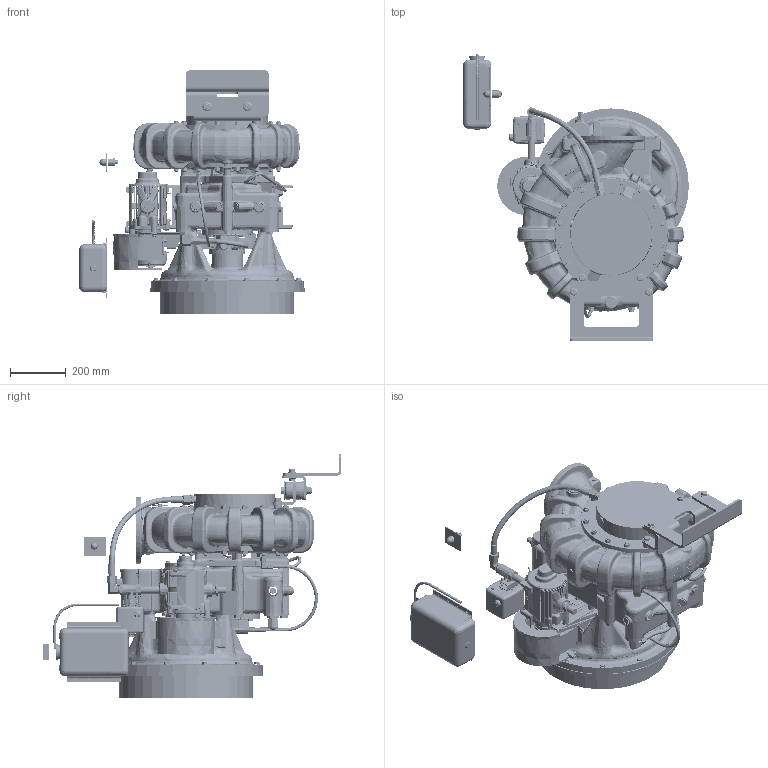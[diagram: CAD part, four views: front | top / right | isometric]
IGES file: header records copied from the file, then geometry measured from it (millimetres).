
Start section:  PTC IGES file: dzd0028.igs
Global section: file name: dzd0028.igs; native system: Creo Parametric by Parametric Technology Corporation; preprocessor: 2013150; author: wah; organization: Unknown; date: 20160118.165549; units: inch
Bounding box: 812.8 x 1076.32 x 875.22 mm (x, y, z)
Surface area: 6498415.1 mm2 (no closed solid volume)
Topology: 0 solids, 0 shells, 8398 faces, 41382 edges, 42456 vertices
Faces by surface type: bspline 4855, revolution 3530, extrusion 13
